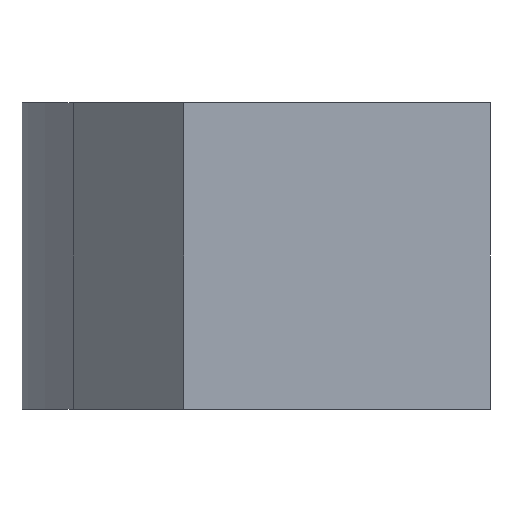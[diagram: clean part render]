
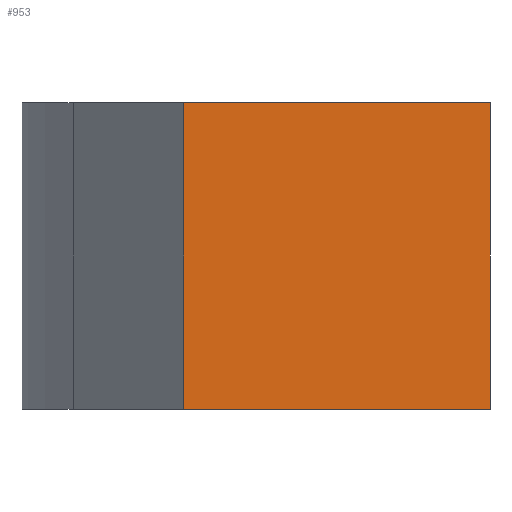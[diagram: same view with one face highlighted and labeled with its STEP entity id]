
A CAD part, front view. The second image highlights one B-rep face of the part: STEP entity #953.
In plain terms, the highlighted planar face has unit normal (0, -1, 0).
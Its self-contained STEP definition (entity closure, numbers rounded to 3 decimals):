
#1 = FACE_OUTER_BOUND ( 'NONE', #239, .T. ) ;
#14 = VERTEX_POINT ( 'NONE', #36 ) ;
#15 = VECTOR ( 'NONE', #166, 1000. ) ;
#17 = VERTEX_POINT ( 'NONE', #725 ) ;
#36 = CARTESIAN_POINT ( 'NONE',  ( 0., 0., 9. ) ) ;
#45 = AXIS2_PLACEMENT_3D ( 'NONE', #544, #472, #539 ) ;
#78 = DIRECTION ( 'NONE',  ( 1., 0., 0. ) ) ;
#166 = DIRECTION ( 'NONE',  ( 1., 0., 0. ) ) ;
#219 = EDGE_CURVE ( 'NONE', #770, #832, #650, .T. ) ;
#239 = EDGE_LOOP ( 'NONE', ( #919, #251, #481, #946 ) ) ;
#251 = ORIENTED_EDGE ( 'NONE', *, *, #219, .F. ) ;
#263 = EDGE_CURVE ( 'NONE', #14, #17, #350, .T. ) ;
#269 = CARTESIAN_POINT ( 'NONE',  ( 9., 0., 9. ) ) ;
#350 = LINE ( 'NONE', #788, #546 ) ;
#472 = DIRECTION ( 'NONE',  ( 0., 1., 0. ) ) ;
#481 = ORIENTED_EDGE ( 'NONE', *, *, #961, .F. ) ;
#502 = VECTOR ( 'NONE', #78, 1000. ) ;
#539 = DIRECTION ( 'NONE',  ( -1., 0., 0. ) ) ;
#544 = CARTESIAN_POINT ( 'NONE',  ( 0., 0., 9. ) ) ;
#546 = VECTOR ( 'NONE', #877, 1000. ) ;
#581 = CARTESIAN_POINT ( 'NONE',  ( 9., 0., 9. ) ) ;
#620 = LINE ( 'NONE', #921, #15 ) ;
#650 = LINE ( 'NONE', #269, #833 ) ;
#725 = CARTESIAN_POINT ( 'NONE',  ( 0., 0., 0. ) ) ;
#770 = VERTEX_POINT ( 'NONE', #581 ) ;
#788 = CARTESIAN_POINT ( 'NONE',  ( 0., 0., 9. ) ) ;
#802 = DIRECTION ( 'NONE',  ( 0., 0., -1. ) ) ;
#832 = VERTEX_POINT ( 'NONE', #902 ) ;
#833 = VECTOR ( 'NONE', #802, 1000. ) ;
#852 = PLANE ( 'NONE',  #45 ) ;
#855 = CARTESIAN_POINT ( 'NONE',  ( 0., 0., 9. ) ) ;
#877 = DIRECTION ( 'NONE',  ( 0., 0., -1. ) ) ;
#878 = EDGE_CURVE ( 'NONE', #17, #832, #620, .T. ) ;
#902 = CARTESIAN_POINT ( 'NONE',  ( 9., 0., 0. ) ) ;
#912 = LINE ( 'NONE', #855, #502 ) ;
#919 = ORIENTED_EDGE ( 'NONE', *, *, #878, .T. ) ;
#921 = CARTESIAN_POINT ( 'NONE',  ( 0., 0., 0. ) ) ;
#946 = ORIENTED_EDGE ( 'NONE', *, *, #263, .T. ) ;
#953 = ADVANCED_FACE ( 'NONE', ( #1 ), #852, .F. ) ;
#961 = EDGE_CURVE ( 'NONE', #14, #770, #912, .T. ) ;
